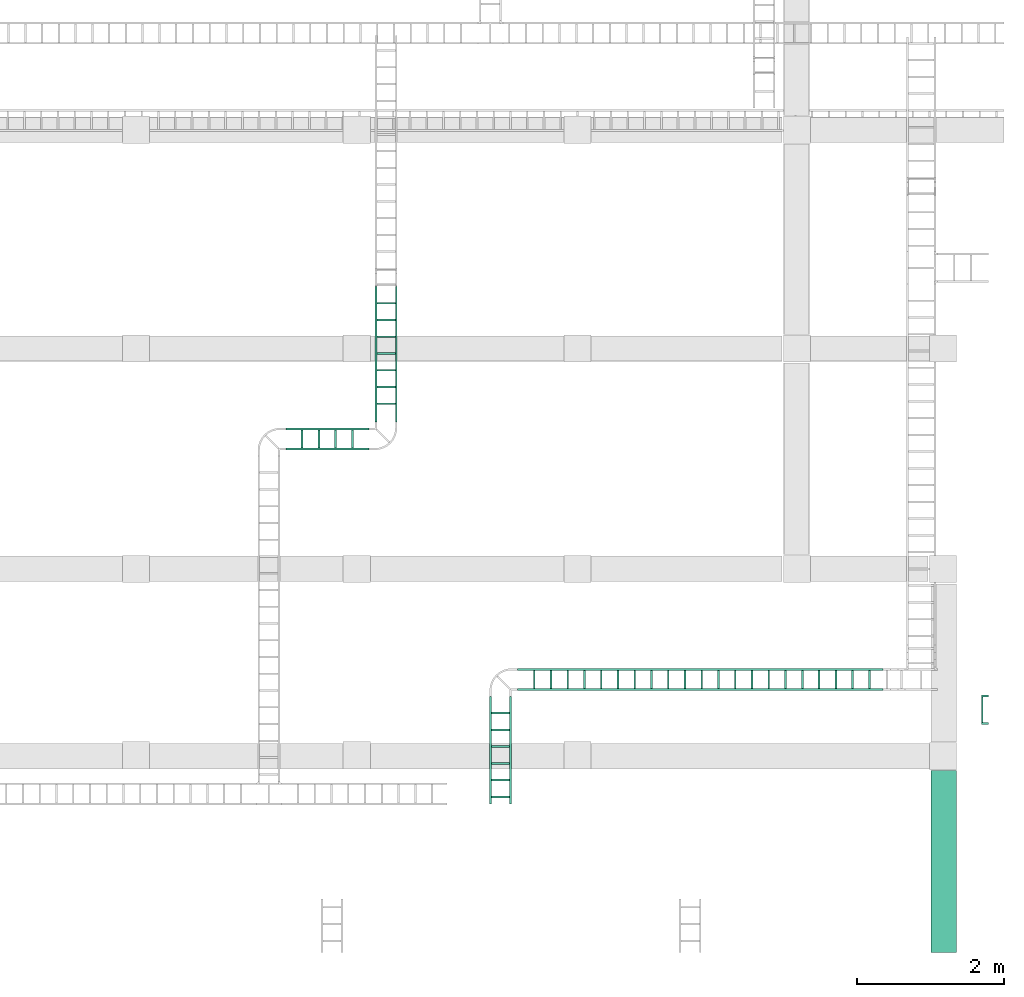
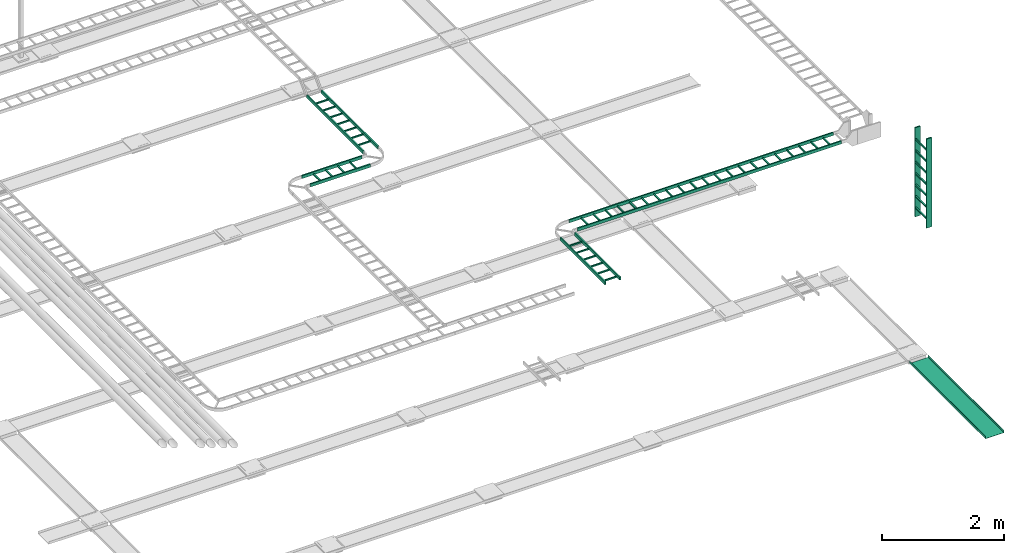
# One storey, part 7 of 16: 6 flow segments.
"""IFC2X3 building model written with IfcOpenShell, lengths in millimetres."""

from ifc_helpers import new_model, entity, si_unit, converted_unit, derived_unit, direction, frame, origin_with_axes, place, context, subcontext, project, spatial, open_shell, faceted_brep, surface_model, source, transform, mapped, type_object, element, save


model = new_model("IFC2X3")

# Units and contexts
model_context = context("Model", 3, precision=0.01, world=frame((0.0, 4.29681676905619e-09, 0.0)), true_north=direction((4.01073788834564e-13, 1.0)))
plan_context = context("Plan", 3, precision=0.01, world=frame((0.0, 4.29681676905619e-09, 0.0)), true_north=direction((4.01073788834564e-13, 1.0)))
body_context = subcontext(model_context, "Body", "Model", "MODEL_VIEW")
ifc_project = project(units=[converted_unit("PLANEANGLEUNIT", "DEGREE", entity("IfcPositiveLengthMeasure", 0.0174532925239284), si_unit("PLANEANGLEUNIT", "RADIAN"), dimensions=[0, 0, 0, 0, 0, 0, 0]), si_unit("AREAUNIT", "SQUARE_METRE"), si_unit("LENGTHUNIT", "METRE", prefix="MILLI"), si_unit("MASSUNIT", "GRAM", prefix="KILO"), si_unit("POWERUNIT", "WATT"), si_unit("PRESSUREUNIT", "PASCAL"), si_unit("FORCEUNIT", "NEWTON", prefix="KILO"), si_unit("ELECTRICVOLTAGEUNIT", "VOLT"), si_unit("ELECTRICCURRENTUNIT", "AMPERE"), si_unit("THERMODYNAMICTEMPERATUREUNIT", "DEGREE_CELSIUS"), si_unit("TIMEUNIT", "SECOND"), si_unit("VOLUMEUNIT", "CUBIC_METRE"), derived_unit("LINEARVELOCITYUNIT", [(si_unit("LENGTHUNIT", "METRE"), 1), (si_unit("TIMEUNIT", "SECOND"), -1)]), derived_unit("VOLUMETRICFLOWRATEUNIT", [(si_unit("VOLUMEUNIT", "CUBIC_METRE"), 1), (si_unit("TIMEUNIT", "SECOND"), -1)]), derived_unit("THERMALTRANSMITTANCEUNIT", [(si_unit("POWERUNIT", "WATT"), 1), (si_unit("THERMODYNAMICTEMPERATUREUNIT", "KELVIN"), -1), (si_unit("AREAUNIT", "SQUARE_METRE"), -1)]), derived_unit("SOUNDPRESSUREUNIT", [(si_unit("PRESSUREUNIT", "PASCAL"), 1)])], contexts=[model_context, plan_context])

# Site, building, storey
site_placement = place(None, frame((0.0, -4.29681676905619e-09, 0.0), z_axis=(0.0, 0.0, 1.0), x_axis=(1.0, 0.0, 0.0)))
site = spatial("IfcSite", under=ifc_project, at=site_placement, Name="ENGM", CompositionType="ELEMENT")
building_placement = place(site_placement, frame((0.0, 4.29681676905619e-09, 0.0), z_axis=(0.0, 0.0, 1.0), x_axis=(1.0, 0.0, 0.0)))
building = spatial("IfcBuilding", under=site, at=building_placement, Name="TS", CompositionType="ELEMENT")
storey_placement = place(building_placement, frame((0.0, 0.0, 210900.0), z_axis=(0.0, 0.0, 1.0), x_axis=(1.0, 0.0, 0.0)))
storey = spatial("IfcBuildingStorey", under=building, at=storey_placement, Name="Nivå F", CompositionType="ELEMENT", Elevation=210900.0)

# Flow segments
cable_carrier_segment_type_1 = type_object("IfcCableCarrierSegmentType", Name="Kabelbro", PredefinedType="CABLELADDERSEGMENT")
shared_shape_1 = source(origin_with_axes(), body_context, "Body", "SurfaceModel", [
    surface_model("IfcShellBasedSurfaceModel", [(0.0, -124.6, -30.0), (0.0, -150.0, -30.0), (0.0, -150.0, 30.0), (0.0, -124.6, 30.0), (0.0, 150.0, -30.0), (0.0, 124.6, -30.0), (0.0, 124.6, 30.0), (0.0, 150.0, 30.0), (241.30001, -124.6, -30.0), (241.30001, -124.6, -4.6), (215.89999, -124.6, -4.6), (215.89999, -124.6, -30.0), (215.89999, 124.6, -4.6), (241.30001, 124.6, -4.6), (241.30001, 124.6, -30.0), (215.89999, 124.6, -30.0), (469.89999, -124.6, -30.0), (469.89999, -124.6, -4.6), (444.50001, -124.6, -4.6), (444.50001, -124.6, -30.0), (444.50001, 124.6, -4.6), (469.89999, 124.6, -4.6), (469.89999, 124.6, -30.0), (444.50001, 124.6, -30.0), (698.50002, -124.6, -30.0), (698.50002, -124.6, -4.6), (673.09998, -124.6, -4.6), (673.09998, -124.6, -30.0), (673.09998, 124.6, -4.6), (698.50002, 124.6, -4.6), (698.50002, 124.6, -30.0), (673.09998, 124.6, -30.0), (927.10002, -124.6, -30.0), (927.10002, -124.6, -4.6), (901.69998, -124.6, -4.6), (901.69998, -124.6, -30.0), (901.69998, 124.6, -4.6), (927.10002, 124.6, -4.6), (927.10002, 124.6, -30.0), (901.69998, 124.6, -30.0), (1155.70002, -124.6, -30.0), (1155.70002, -124.6, -4.6), (1130.29998, -124.6, -4.6), (1130.29998, -124.6, -30.0), (1130.29998, 124.6, -4.6), (1155.70002, 124.6, -4.6), (1155.70002, 124.6, -30.0), (1130.29998, 124.6, -30.0), (1384.29995, -124.6, -30.0), (1384.29995, -124.6, -4.6), (1358.90005, -124.6, -4.6), (1358.90005, -124.6, -30.0), (1358.90005, 124.6, -4.6), (1384.29995, 124.6, -4.6), (1384.29995, 124.6, -30.0), (1358.90005, 124.6, -30.0), (1612.89995, -124.6, -30.0), (1612.89995, -124.6, -4.6), (1587.50005, -124.6, -4.6), (1587.50005, -124.6, -30.0), (1587.50005, 124.6, -4.6), (1612.89995, 124.6, -4.6), (1612.89995, 124.6, -30.0), (1587.50005, 124.6, -30.0), (1841.49995, -124.6, -30.0), (1841.49995, -124.6, -4.6), (1816.10005, -124.6, -4.6), (1816.10005, -124.6, -30.0), (1816.10005, 124.6, -4.6), (1841.49995, 124.6, -4.6), (1841.49995, 124.6, -30.0), (1816.10005, 124.6, -30.0), (2070.09995, -124.6, -30.0), (2070.09995, -124.6, -4.6), (2044.70005, -124.6, -4.6), (2044.70005, -124.6, -30.0), (2044.70005, 124.6, -4.6), (2070.09995, 124.6, -4.6), (2070.09995, 124.6, -30.0), (2044.70005, 124.6, -30.0), (2298.69995, -124.6, -30.0), (2298.69995, -124.6, -4.6), (2273.30005, -124.6, -4.6), (2273.30005, -124.6, -30.0), (2273.30005, 124.6, -4.6), (2298.69995, 124.6, -4.6), (2298.69995, 124.6, -30.0), (2273.30005, 124.6, -30.0), (2527.3001, -124.6, -30.0), (2527.3001, -124.6, -4.6), (2501.8999, -124.6, -4.6), (2501.8999, -124.6, -30.0), (2501.8999, 124.6, -4.6), (2527.3001, 124.6, -4.6), (2527.3001, 124.6, -30.0), (2501.8999, 124.6, -30.0), (2755.9001, -124.6, -30.0), (2755.9001, -124.6, -4.6), (2730.4999, -124.6, -4.6), (2730.4999, -124.6, -30.0), (2730.4999, 124.6, -4.6), (2755.9001, 124.6, -4.6), (2755.9001, 124.6, -30.0), (2730.4999, 124.6, -30.0), (2984.5001, -124.6, -30.0), (2984.5001, -124.6, -4.6), (2959.0999, -124.6, -4.6), (2959.0999, -124.6, -30.0), (2959.0999, 124.6, -4.6), (2984.5001, 124.6, -4.6), (2984.5001, 124.6, -30.0), (2959.0999, 124.6, -30.0), (3213.1001, -124.6, -30.0), (3213.1001, -124.6, -4.6), (3187.6999, -124.6, -4.6), (3187.6999, -124.6, -30.0), (3187.6999, 124.6, -4.6), (3213.1001, 124.6, -4.6), (3213.1001, 124.6, -30.0), (3187.6999, 124.6, -30.0), (3441.7001, -124.6, -30.0), (3441.7001, -124.6, -4.6), (3416.2999, -124.6, -4.6), (3416.2999, -124.6, -30.0), (3416.2999, 124.6, -4.6), (3441.7001, 124.6, -4.6), (3441.7001, 124.6, -30.0), (3416.2999, 124.6, -30.0), (3670.3001, -124.6, -30.0), (3670.3001, -124.6, -4.6), (3644.8999, -124.6, -4.6), (3644.8999, -124.6, -30.0), (3644.8999, 124.6, -4.6), (3670.3001, 124.6, -4.6), (3670.3001, 124.6, -30.0), (3644.8999, 124.6, -30.0), (3898.9001, -124.6, -30.0), (3898.9001, -124.6, -4.6), (3873.4999, -124.6, -4.6), (3873.4999, -124.6, -30.0), (3873.4999, 124.6, -4.6), (3898.9001, 124.6, -4.6), (3898.9001, 124.6, -30.0), (3873.4999, 124.6, -30.0), (4127.5001, -124.6, -30.0), (4127.5001, -124.6, -4.6), (4102.0999, -124.6, -4.6), (4102.0999, -124.6, -30.0), (4102.0999, 124.6, -4.6), (4127.5001, 124.6, -4.6), (4127.5001, 124.6, -30.0), (4102.0999, 124.6, -30.0), (4356.1001, -124.6, -30.0), (4356.1001, -124.6, -4.6), (4330.6999, -124.6, -4.6), (4330.6999, -124.6, -30.0), (4330.6999, 124.6, -4.6), (4356.1001, 124.6, -4.6), (4356.1001, 124.6, -30.0), (4330.6999, 124.6, -30.0), (4584.7001, -124.6, -30.0), (4584.7001, -124.6, -4.6), (4559.2999, -124.6, -4.6), (4559.2999, -124.6, -30.0), (4559.2999, 124.6, -4.6), (4584.7001, 124.6, -4.6), (4584.7001, 124.6, -30.0), (4559.2999, 124.6, -30.0), (4813.3001, -124.6, -30.0), (4813.3001, -124.6, -4.6), (4787.8999, -124.6, -4.6), (4787.8999, -124.6, -30.0), (4787.8999, 124.6, -4.6), (4813.3001, 124.6, -4.6), (4813.3001, 124.6, -30.0), (4787.8999, 124.6, -30.0), (4989.00013, -150.0, 30.0), (4989.00013, -150.0, -30.0), (4989.00013, -124.6, -30.0), (4989.00013, -124.6, 30.0), (4989.00013, 124.6, 30.0), (4989.00013, 124.6, -30.0), (4989.00013, 150.0, -30.0), (4989.00013, 150.0, 30.0)], [open_shell([[[0, 1, 2]], [[2, 3, 0]], [[4, 5, 6]], [[6, 7, 4]], [[8, 9, 10]], [[10, 11, 8]], [[12, 13, 14]], [[14, 15, 12]], [[9, 8, 14]], [[14, 13, 9]], [[10, 9, 12]], [[13, 12, 9]], [[11, 10, 12]], [[12, 15, 11]], [[8, 11, 14]], [[15, 14, 11]], [[16, 17, 18]], [[18, 19, 16]], [[20, 21, 22]], [[22, 23, 20]], [[17, 16, 22]], [[22, 21, 17]], [[18, 17, 20]], [[21, 20, 17]], [[19, 18, 20]], [[20, 23, 19]], [[16, 19, 22]], [[23, 22, 19]], [[24, 25, 26]], [[26, 27, 24]], [[28, 29, 30]], [[30, 31, 28]], [[25, 24, 30]], [[30, 29, 25]], [[26, 25, 28]], [[29, 28, 25]], [[27, 26, 28]], [[28, 31, 27]], [[24, 27, 30]], [[31, 30, 27]], [[32, 33, 34]], [[34, 35, 32]], [[36, 37, 38]], [[38, 39, 36]], [[33, 32, 38]], [[38, 37, 33]], [[34, 33, 36]], [[37, 36, 33]], [[35, 34, 36]], [[36, 39, 35]], [[32, 35, 38]], [[39, 38, 35]], [[40, 41, 42]], [[42, 43, 40]], [[44, 45, 46]], [[46, 47, 44]], [[41, 40, 46]], [[46, 45, 41]], [[42, 41, 44]], [[45, 44, 41]], [[43, 42, 44]], [[44, 47, 43]], [[40, 43, 46]], [[47, 46, 43]], [[48, 49, 50]], [[50, 51, 48]], [[52, 53, 54]], [[54, 55, 52]], [[49, 48, 54]], [[54, 53, 49]], [[50, 49, 52]], [[53, 52, 49]], [[51, 50, 52]], [[52, 55, 51]], [[48, 51, 54]], [[55, 54, 51]], [[56, 57, 58]], [[58, 59, 56]], [[60, 61, 62]], [[62, 63, 60]], [[57, 56, 62]], [[62, 61, 57]], [[58, 57, 60]], [[61, 60, 57]], [[59, 58, 60]], [[60, 63, 59]], [[56, 59, 62]], [[63, 62, 59]], [[64, 65, 66]], [[66, 67, 64]], [[68, 69, 70]], [[70, 71, 68]], [[65, 64, 70]], [[70, 69, 65]], [[66, 65, 68]], [[69, 68, 65]], [[67, 66, 68]], [[68, 71, 67]], [[64, 67, 70]], [[71, 70, 67]], [[72, 73, 74]], [[74, 75, 72]], [[76, 77, 78]], [[78, 79, 76]], [[73, 72, 78]], [[78, 77, 73]], [[74, 73, 76]], [[77, 76, 73]], [[75, 74, 76]], [[76, 79, 75]], [[72, 75, 78]], [[79, 78, 75]], [[80, 81, 82]], [[82, 83, 80]], [[84, 85, 86]], [[86, 87, 84]], [[81, 80, 86]], [[86, 85, 81]], [[82, 81, 84]], [[85, 84, 81]], [[83, 82, 84]], [[84, 87, 83]], [[80, 83, 86]], [[87, 86, 83]], [[88, 89, 90]], [[90, 91, 88]], [[92, 93, 94]], [[94, 95, 92]], [[89, 88, 94]], [[94, 93, 89]], [[90, 89, 92]], [[93, 92, 89]], [[91, 90, 92]], [[92, 95, 91]], [[88, 91, 94]], [[95, 94, 91]], [[96, 97, 98]], [[98, 99, 96]], [[100, 101, 102]], [[102, 103, 100]], [[97, 96, 102]], [[102, 101, 97]], [[98, 97, 100]], [[101, 100, 97]], [[99, 98, 100]], [[100, 103, 99]], [[96, 99, 102]], [[103, 102, 99]], [[104, 105, 106]], [[106, 107, 104]], [[108, 109, 110]], [[110, 111, 108]], [[105, 104, 110]], [[110, 109, 105]], [[106, 105, 108]], [[109, 108, 105]], [[107, 106, 108]], [[108, 111, 107]], [[104, 107, 110]], [[111, 110, 107]], [[112, 113, 114]], [[114, 115, 112]], [[116, 117, 118]], [[118, 119, 116]], [[113, 112, 118]], [[118, 117, 113]], [[114, 113, 116]], [[117, 116, 113]], [[115, 114, 116]], [[116, 119, 115]], [[112, 115, 118]], [[119, 118, 115]], [[120, 121, 122]], [[122, 123, 120]], [[124, 125, 126]], [[126, 127, 124]], [[121, 120, 126]], [[126, 125, 121]], [[122, 121, 124]], [[125, 124, 121]], [[123, 122, 124]], [[124, 127, 123]], [[120, 123, 126]], [[127, 126, 123]], [[128, 129, 130]], [[130, 131, 128]], [[132, 133, 134]], [[134, 135, 132]], [[129, 128, 134]], [[134, 133, 129]], [[130, 129, 132]], [[133, 132, 129]], [[131, 130, 132]], [[132, 135, 131]], [[128, 131, 134]], [[135, 134, 131]], [[136, 137, 138]], [[138, 139, 136]], [[140, 141, 142]], [[142, 143, 140]], [[137, 136, 142]], [[142, 141, 137]], [[138, 137, 140]], [[141, 140, 137]], [[139, 138, 140]], [[140, 143, 139]], [[136, 139, 142]], [[143, 142, 139]], [[144, 145, 146]], [[146, 147, 144]], [[148, 149, 150]], [[150, 151, 148]], [[145, 144, 150]], [[150, 149, 145]], [[146, 145, 148]], [[149, 148, 145]], [[147, 146, 148]], [[148, 151, 147]], [[144, 147, 150]], [[151, 150, 147]], [[152, 153, 154]], [[154, 155, 152]], [[156, 157, 158]], [[158, 159, 156]], [[153, 152, 158]], [[158, 157, 153]], [[154, 153, 156]], [[157, 156, 153]], [[155, 154, 156]], [[156, 159, 155]], [[152, 155, 158]], [[159, 158, 155]], [[160, 161, 162]], [[162, 163, 160]], [[164, 165, 166]], [[166, 167, 164]], [[161, 160, 166]], [[166, 165, 161]], [[162, 161, 164]], [[165, 164, 161]], [[163, 162, 164]], [[164, 167, 163]], [[160, 163, 166]], [[167, 166, 163]], [[168, 169, 170]], [[170, 171, 168]], [[172, 173, 174]], [[174, 175, 172]], [[169, 168, 174]], [[174, 173, 169]], [[170, 169, 172]], [[173, 172, 169]], [[171, 170, 172]], [[172, 175, 171]], [[168, 171, 174]], [[175, 174, 171]], [[176, 177, 178]], [[178, 179, 176]], [[180, 181, 182]], [[182, 183, 180]], [[2, 1, 176]], [[177, 176, 1]], [[3, 2, 176]], [[176, 179, 3]], [[0, 3, 178]], [[179, 178, 3]], [[1, 0, 178]], [[178, 177, 1]], [[4, 7, 182]], [[183, 182, 7]], [[5, 4, 182]], [[182, 181, 5]], [[6, 5, 180]], [[181, 180, 5]], [[7, 6, 180]], [[180, 183, 7]]])]),
])
flow_segment_1_placement = place(storey_placement, frame((529683.55901, 444501.94453, 3925.0), z_axis=(0.0, 0.0, 1.0), x_axis=(1.0, 0.0, 0.0)))
element("IfcFlowSegment", 1, at=flow_segment_1_placement, inside=storey, type_object=cable_carrier_segment_type_1, Name="Kabelbro", context=body_context, shape_type="MappedRepresentation", body=[
    mapped(shared_shape_1, transform((0.0, 0.0, 0.0), scale=1.0)),
])
shared_shape_2 = source(origin_with_axes(), body_context, "Body", "SurfaceModel", [
    surface_model("IfcShellBasedSurfaceModel", [(241.30001, -124.6, -4.6), (241.30001, -124.6, -30.0), (241.30001, 124.6, -30.0), (241.30001, 124.6, -4.6), (215.89999, -124.6, -4.6), (215.89999, 124.6, -4.6), (215.89999, -124.6, -30.0), (215.89999, 124.6, -30.0), (469.89999, -124.6, -4.6), (469.89999, -124.6, -30.0), (469.89999, 124.6, -30.0), (469.89999, 124.6, -4.6), (444.50001, -124.6, -4.6), (444.50001, 124.6, -4.6), (444.50001, -124.6, -30.0), (444.50001, 124.6, -30.0), (698.50002, -124.6, -4.6), (698.50002, -124.6, -30.0), (698.50002, 124.6, -30.0), (698.50002, 124.6, -4.6), (673.09998, -124.6, -4.6), (673.09998, 124.6, -4.6), (673.09998, -124.6, -30.0), (673.09998, 124.6, -30.0), (927.10002, -124.6, -4.6), (927.10002, -124.6, -30.0), (927.10002, 124.6, -30.0), (927.10002, 124.6, -4.6), (901.69998, -124.6, -4.6), (901.69998, 124.6, -4.6), (901.69998, -124.6, -30.0), (901.69998, 124.6, -30.0), (1155.70002, -124.6, -4.6), (1155.70002, -124.6, -30.0), (1155.70002, 124.6, -30.0), (1155.70002, 124.6, -4.6), (1130.29998, -124.6, -4.6), (1130.29998, 124.6, -4.6), (1130.29998, -124.6, -30.0), (1130.29998, 124.6, -30.0), (1384.29995, -124.6, -4.6), (1384.29995, -124.6, -30.0), (1384.29995, 124.6, -30.0), (1384.29995, 124.6, -4.6), (1358.90005, -124.6, -4.6), (1358.90005, 124.6, -4.6), (1358.90005, -124.6, -30.0), (1358.90005, 124.6, -30.0), (1612.89995, -124.6, -4.6), (1612.89995, -124.6, -30.0), (1612.89995, 124.6, -30.0), (1612.89995, 124.6, -4.6), (1587.50005, -124.6, -4.6), (1587.50005, 124.6, -4.6), (1587.50005, -124.6, -30.0), (1587.50005, 124.6, -30.0), (0.0, -124.6, 30.0), (0.0, -124.6, -30.0), (0.0, -150.0, -30.0), (0.0, -150.0, 30.0), (0.0, 150.0, 30.0), (0.0, 150.0, -30.0), (0.0, 124.6, -30.0), (0.0, 124.6, 30.0), (1849.43144, -124.6, 30.0), (1849.43144, -150.0, 30.0), (1849.43144, -150.0, -30.0), (1849.43144, -124.6, -30.0), (1849.43144, 150.0, 30.0), (1849.43144, 124.6, 30.0), (1849.43144, 124.6, -30.0), (1849.43144, 150.0, -30.0)], [open_shell([[[0, 1, 2]], [[2, 3, 0]], [[4, 0, 5]], [[3, 5, 0]], [[6, 4, 5]], [[5, 7, 6]], [[1, 6, 2]], [[7, 2, 6]], [[8, 9, 10]], [[10, 11, 8]], [[12, 8, 13]], [[11, 13, 8]], [[14, 12, 13]], [[13, 15, 14]], [[9, 14, 10]], [[15, 10, 14]], [[16, 17, 18]], [[18, 19, 16]], [[20, 16, 21]], [[19, 21, 16]], [[22, 20, 21]], [[21, 23, 22]], [[17, 22, 18]], [[23, 18, 22]], [[24, 25, 26]], [[26, 27, 24]], [[28, 24, 29]], [[27, 29, 24]], [[30, 28, 29]], [[29, 31, 30]], [[25, 30, 26]], [[31, 26, 30]], [[32, 33, 34]], [[34, 35, 32]], [[36, 32, 37]], [[35, 37, 32]], [[38, 36, 37]], [[37, 39, 38]], [[33, 38, 34]], [[39, 34, 38]], [[40, 41, 42]], [[42, 43, 40]], [[44, 40, 45]], [[43, 45, 40]], [[46, 44, 45]], [[45, 47, 46]], [[41, 46, 42]], [[47, 42, 46]], [[48, 49, 50]], [[50, 51, 48]], [[52, 48, 53]], [[51, 53, 48]], [[54, 52, 53]], [[53, 55, 54]], [[49, 54, 50]], [[55, 50, 54]], [[56, 57, 58]], [[58, 59, 56]], [[60, 61, 62]], [[62, 63, 60]], [[6, 1, 0]], [[0, 4, 6]], [[3, 2, 7]], [[7, 5, 3]], [[14, 9, 8]], [[8, 12, 14]], [[11, 10, 15]], [[15, 13, 11]], [[22, 17, 16]], [[16, 20, 22]], [[19, 18, 23]], [[23, 21, 19]], [[30, 25, 24]], [[24, 28, 30]], [[27, 26, 31]], [[31, 29, 27]], [[38, 33, 32]], [[32, 36, 38]], [[35, 34, 39]], [[39, 37, 35]], [[46, 41, 40]], [[40, 44, 46]], [[43, 42, 47]], [[47, 45, 43]], [[54, 49, 48]], [[48, 52, 54]], [[51, 50, 55]], [[55, 53, 51]], [[64, 65, 66]], [[66, 67, 64]], [[68, 69, 70]], [[70, 71, 68]], [[59, 58, 66]], [[66, 65, 59]], [[56, 59, 64]], [[65, 64, 59]], [[57, 56, 64]], [[64, 67, 57]], [[58, 57, 66]], [[67, 66, 57]], [[61, 60, 68]], [[68, 71, 61]], [[62, 61, 70]], [[71, 70, 61]], [[63, 62, 70]], [[70, 69, 63]], [[60, 63, 68]], [[69, 68, 63]]])]),
])
flow_segment_2_placement = place(storey_placement, frame((527892.55901, 449861.7271, 3925.0), z_axis=(0.0, 0.0, 1.0), x_axis=(0.0, -1.0, 0.0)))
element("IfcFlowSegment", 2, at=flow_segment_2_placement, inside=storey, type_object=cable_carrier_segment_type_1, Name="Kabelbro", context=body_context, shape_type="MappedRepresentation", body=[
    mapped(shared_shape_2, transform((0.0, 0.0, 0.0), scale=1.0)),
])
shared_shape_3 = source(origin_with_axes(), body_context, "Body", "SurfaceModel", [
    surface_model("IfcShellBasedSurfaceModel", [(0.0, -124.6, -30.0), (0.0, -150.0, -30.0), (0.0, -150.0, 30.0), (0.0, -124.6, 30.0), (0.0, 150.0, -30.0), (0.0, 124.6, -30.0), (0.0, 124.6, 30.0), (0.0, 150.0, 30.0), (241.30001, -124.6, -30.0), (241.30001, -124.6, -4.6), (215.89999, -124.6, -4.6), (215.89999, -124.6, -30.0), (215.89999, 124.6, -4.6), (241.30001, 124.6, -4.6), (241.30001, 124.6, -30.0), (215.89999, 124.6, -30.0), (469.89999, -124.6, -30.0), (469.89999, -124.6, -4.6), (444.50001, -124.6, -4.6), (444.50001, -124.6, -30.0), (444.50001, 124.6, -4.6), (469.89999, 124.6, -4.6), (469.89999, 124.6, -30.0), (444.50001, 124.6, -30.0), (698.50002, -124.6, -30.0), (698.50002, -124.6, -4.6), (673.09998, -124.6, -4.6), (673.09998, -124.6, -30.0), (673.09998, 124.6, -4.6), (698.50002, 124.6, -4.6), (698.50002, 124.6, -30.0), (673.09998, 124.6, -30.0), (927.10002, -124.6, -30.0), (927.10002, -124.6, -4.6), (901.69998, -124.6, -4.6), (901.69998, -124.6, -30.0), (901.69998, 124.6, -4.6), (927.10002, 124.6, -4.6), (927.10002, 124.6, -30.0), (901.69998, 124.6, -30.0), (1138.00001, -150.0, 30.0), (1138.00001, -150.0, -30.0), (1138.00001, -124.6, -30.0), (1138.00001, -124.6, 30.0), (1138.00001, 124.6, 30.0), (1138.00001, 124.6, -30.0), (1138.00001, 150.0, -30.0), (1138.00001, 150.0, 30.0)], [open_shell([[[0, 1, 2]], [[2, 3, 0]], [[4, 5, 6]], [[6, 7, 4]], [[8, 9, 10]], [[10, 11, 8]], [[12, 13, 14]], [[14, 15, 12]], [[9, 8, 14]], [[14, 13, 9]], [[10, 9, 12]], [[13, 12, 9]], [[11, 10, 12]], [[12, 15, 11]], [[8, 11, 14]], [[15, 14, 11]], [[16, 17, 18]], [[18, 19, 16]], [[20, 21, 22]], [[22, 23, 20]], [[17, 16, 22]], [[22, 21, 17]], [[18, 17, 20]], [[21, 20, 17]], [[19, 18, 20]], [[20, 23, 19]], [[16, 19, 22]], [[23, 22, 19]], [[24, 25, 26]], [[26, 27, 24]], [[28, 29, 30]], [[30, 31, 28]], [[25, 24, 30]], [[30, 29, 25]], [[26, 25, 28]], [[29, 28, 25]], [[27, 26, 28]], [[28, 31, 27]], [[24, 27, 30]], [[31, 30, 27]], [[32, 33, 34]], [[34, 35, 32]], [[36, 37, 38]], [[38, 39, 36]], [[33, 32, 38]], [[38, 37, 33]], [[34, 33, 36]], [[37, 36, 33]], [[35, 34, 36]], [[36, 39, 35]], [[32, 35, 38]], [[39, 38, 35]], [[40, 41, 42]], [[42, 43, 40]], [[44, 45, 46]], [[46, 47, 44]], [[2, 1, 40]], [[41, 40, 1]], [[3, 2, 43]], [[40, 43, 2]], [[0, 3, 42]], [[43, 42, 3]], [[1, 0, 41]], [[42, 41, 0]], [[4, 7, 46]], [[47, 46, 7]], [[5, 4, 45]], [[46, 45, 4]], [[6, 5, 44]], [[45, 44, 5]], [[7, 6, 47]], [[44, 47, 6]]])]),
])
flow_segment_3_placement = place(storey_placement, frame((527661.55901, 447781.29565, 3925.0), z_axis=(0.0, 0.0, 1.0), x_axis=(-1.0, 0.0, 0.0)))
element("IfcFlowSegment", 3, at=flow_segment_3_placement, inside=storey, type_object=cable_carrier_segment_type_1, Name="Kabelbro", context=body_context, shape_type="MappedRepresentation", body=[
    mapped(shared_shape_3, transform((0.0, 0.0, 0.0), scale=1.0)),
])
shared_shape_4 = source(origin_with_axes(), body_context, "Body", "SurfaceModel", [
    surface_model("IfcShellBasedSurfaceModel", [(241.30001, -124.6, -4.6), (241.30001, -124.6, -30.0), (241.30001, 124.6, -30.0), (241.30001, 124.6, -4.6), (215.89999, -124.6, -4.6), (215.89999, 124.6, -4.6), (215.89999, -124.6, -30.0), (215.89999, 124.6, -30.0), (469.89999, -124.6, -4.6), (469.89999, -124.6, -30.0), (469.89999, 124.6, -30.0), (469.89999, 124.6, -4.6), (444.50001, -124.6, -4.6), (444.50001, 124.6, -4.6), (444.50001, -124.6, -30.0), (444.50001, 124.6, -30.0), (698.50002, -124.6, -4.6), (698.50002, -124.6, -30.0), (698.50002, 124.6, -30.0), (698.50002, 124.6, -4.6), (673.09998, -124.6, -4.6), (673.09998, 124.6, -4.6), (673.09998, -124.6, -30.0), (673.09998, 124.6, -30.0), (927.10002, -124.6, -4.6), (927.10002, -124.6, -30.0), (927.10002, 124.6, -30.0), (927.10002, 124.6, -4.6), (901.69998, -124.6, -4.6), (901.69998, 124.6, -4.6), (901.69998, -124.6, -30.0), (901.69998, 124.6, -30.0), (1155.70002, -124.6, -4.6), (1155.70002, -124.6, -30.0), (1155.70002, 124.6, -30.0), (1155.70002, 124.6, -4.6), (1130.29998, -124.6, -4.6), (1130.29998, 124.6, -4.6), (1130.29998, -124.6, -30.0), (1130.29998, 124.6, -30.0), (1384.29995, -124.6, -4.6), (1384.29995, -124.6, -30.0), (1384.29995, 124.6, -30.0), (1384.29995, 124.6, -4.6), (1358.90005, -124.6, -4.6), (1358.90005, 124.6, -4.6), (1358.90005, -124.6, -30.0), (1358.90005, 124.6, -30.0), (0.0, -124.6, 30.0), (0.0, -124.6, -30.0), (0.0, -150.0, -30.0), (0.0, -150.0, 30.0), (0.0, 150.0, 30.0), (0.0, 150.0, -30.0), (0.0, 124.6, -30.0), (0.0, 124.6, 30.0), (1469.00001, -124.6, 30.0), (1469.00001, -150.0, 30.0), (1469.00001, -150.0, -30.0), (1469.00001, -124.6, -30.0), (1469.00001, 150.0, 30.0), (1469.00001, 124.6, 30.0), (1469.00001, 124.6, -30.0), (1469.00001, 150.0, -30.0)], [open_shell([[[0, 1, 2]], [[2, 3, 0]], [[4, 0, 5]], [[3, 5, 0]], [[6, 4, 5]], [[5, 7, 6]], [[1, 6, 2]], [[7, 2, 6]], [[8, 9, 10]], [[10, 11, 8]], [[12, 8, 13]], [[11, 13, 8]], [[14, 12, 13]], [[13, 15, 14]], [[9, 14, 10]], [[15, 10, 14]], [[16, 17, 18]], [[18, 19, 16]], [[20, 16, 21]], [[19, 21, 16]], [[22, 20, 21]], [[21, 23, 22]], [[17, 22, 18]], [[23, 18, 22]], [[24, 25, 26]], [[26, 27, 24]], [[28, 24, 29]], [[27, 29, 24]], [[30, 28, 29]], [[29, 31, 30]], [[25, 30, 26]], [[31, 26, 30]], [[32, 33, 34]], [[34, 35, 32]], [[36, 32, 37]], [[35, 37, 32]], [[38, 36, 37]], [[37, 39, 38]], [[33, 38, 34]], [[39, 34, 38]], [[40, 41, 42]], [[42, 43, 40]], [[44, 40, 45]], [[43, 45, 40]], [[46, 44, 45]], [[45, 47, 46]], [[41, 46, 42]], [[47, 42, 46]], [[48, 49, 50]], [[50, 51, 48]], [[52, 53, 54]], [[54, 55, 52]], [[6, 1, 0]], [[0, 4, 6]], [[3, 2, 7]], [[7, 5, 3]], [[14, 9, 8]], [[8, 12, 14]], [[11, 10, 15]], [[15, 13, 11]], [[22, 17, 16]], [[16, 20, 22]], [[19, 18, 23]], [[23, 21, 19]], [[30, 25, 24]], [[24, 28, 30]], [[27, 26, 31]], [[31, 29, 27]], [[38, 33, 32]], [[32, 36, 38]], [[35, 34, 39]], [[39, 37, 35]], [[46, 41, 40]], [[40, 44, 46]], [[43, 42, 47]], [[47, 45, 43]], [[56, 57, 58]], [[58, 59, 56]], [[60, 61, 62]], [[62, 63, 60]], [[51, 50, 57]], [[58, 57, 50]], [[48, 51, 57]], [[57, 56, 48]], [[49, 48, 56]], [[56, 59, 49]], [[50, 49, 59]], [[59, 58, 50]], [[53, 52, 60]], [[60, 63, 53]], [[54, 53, 63]], [[63, 62, 54]], [[55, 54, 61]], [[62, 61, 54]], [[52, 55, 61]], [[61, 60, 52]]])]),
])
flow_segment_4_placement = place(storey_placement, frame((529452.55901, 444270.94453, 3925.0), z_axis=(0.0, 0.0, 1.0), x_axis=(0.0, -1.0, 0.0)))
element("IfcFlowSegment", 4, at=flow_segment_4_placement, inside=storey, type_object=cable_carrier_segment_type_1, Name="Kabelbro", context=body_context, shape_type="MappedRepresentation", body=[
    mapped(shared_shape_4, transform((0.0, 0.0, 0.0), scale=1.0)),
])
shared_shape_5 = source(origin_with_axes(), body_context, "Body", "SurfaceModel", [
    surface_model("IfcShellBasedSurfaceModel", [(0.0, -174.60001, -50.0), (0.0, -200.0, 50.0), (0.0, -174.60001, 50.0), (0.0, -200.0, -50.0), (0.0, 200.0, -50.0), (0.0, 174.60001, 50.0), (0.0, 200.0, 50.0), (0.0, 174.60001, -50.0), (1780.00007, -174.60001, 50.0), (1780.00007, -200.0, 50.0), (1780.00007, -174.60001, -50.0), (1780.00007, -200.0, -50.0), (1780.00007, 200.0, 50.0), (1780.00007, 174.60001, 50.0), (1780.00007, 200.0, -50.0), (1780.00007, 174.60001, -50.0), (215.89999, -174.60001, -50.0), (241.30001, -174.60001, -50.0), (241.30001, -174.60001, -24.6), (215.89999, -174.60001, -24.6), (241.30001, 174.60001, -24.6), (241.30001, 174.60001, -50.0), (215.89999, 174.60001, -50.0), (215.89999, 174.60001, -24.6), (444.50001, -174.60001, -50.0), (469.89999, -174.60001, -50.0), (469.89999, -174.60001, -24.6), (444.50001, -174.60001, -24.6), (469.89999, 174.60001, -24.6), (469.89999, 174.60001, -50.0), (444.50001, 174.60001, -50.0), (444.50001, 174.60001, -24.6), (673.09998, -174.60001, -50.0), (698.50002, -174.60001, -50.0), (698.50002, -174.60001, -24.6), (673.09998, -174.60001, -24.6), (698.50002, 174.60001, -24.6), (698.50002, 174.60001, -50.0), (673.09998, 174.60001, -50.0), (673.09998, 174.60001, -24.6), (901.69998, -174.60001, -50.0), (927.10002, -174.60001, -50.0), (927.10002, -174.60001, -24.6), (901.69998, -174.60001, -24.6), (927.10002, 174.60001, -24.6), (927.10002, 174.60001, -50.0), (901.69998, 174.60001, -50.0), (901.69998, 174.60001, -24.6), (1130.29998, -174.60001, -50.0), (1155.70002, -174.60001, -50.0), (1155.70002, -174.60001, -24.6), (1130.29998, -174.60001, -24.6), (1155.70002, 174.60001, -24.6), (1155.70002, 174.60001, -50.0), (1130.29998, 174.60001, -50.0), (1130.29998, 174.60001, -24.6), (1358.90005, -174.60001, -50.0), (1384.29995, -174.60001, -50.0), (1384.29995, -174.60001, -24.6), (1358.90005, -174.60001, -24.6), (1384.29995, 174.60001, -24.6), (1384.29995, 174.60001, -50.0), (1358.90005, 174.60001, -50.0), (1358.90005, 174.60001, -24.6), (1587.50005, -174.60001, -50.0), (1612.89995, -174.60001, -50.0), (1612.89995, -174.60001, -24.6), (1587.50005, -174.60001, -24.6), (1612.89995, 174.60001, -24.6), (1612.89995, 174.60001, -50.0), (1587.50005, 174.60001, -50.0), (1587.50005, 174.60001, -24.6)], [open_shell([[[0, 1, 2]], [[1, 0, 3]], [[4, 5, 6]], [[5, 4, 7]], [[8, 9, 10]], [[11, 10, 9]], [[12, 13, 14]], [[15, 14, 13]], [[1, 3, 11]], [[11, 9, 1]], [[2, 1, 9]], [[9, 8, 2]], [[0, 2, 8]], [[8, 10, 0]], [[3, 0, 10]], [[10, 11, 3]], [[4, 6, 12]], [[12, 14, 4]], [[7, 4, 14]], [[14, 15, 7]], [[5, 7, 15]], [[15, 13, 5]], [[6, 5, 13]], [[13, 12, 6]], [[16, 17, 18]], [[18, 19, 16]], [[20, 21, 22]], [[22, 23, 20]], [[18, 17, 20]], [[21, 20, 17]], [[19, 18, 20]], [[20, 23, 19]], [[16, 19, 22]], [[23, 22, 19]], [[17, 16, 22]], [[22, 21, 17]], [[24, 25, 26]], [[26, 27, 24]], [[28, 29, 30]], [[30, 31, 28]], [[26, 25, 28]], [[29, 28, 25]], [[27, 26, 28]], [[28, 31, 27]], [[24, 27, 30]], [[31, 30, 27]], [[25, 24, 30]], [[30, 29, 25]], [[32, 33, 34]], [[34, 35, 32]], [[36, 37, 38]], [[38, 39, 36]], [[34, 33, 36]], [[37, 36, 33]], [[35, 34, 36]], [[36, 39, 35]], [[32, 35, 38]], [[39, 38, 35]], [[33, 32, 38]], [[38, 37, 33]], [[40, 41, 42]], [[42, 43, 40]], [[44, 45, 46]], [[46, 47, 44]], [[42, 41, 44]], [[45, 44, 41]], [[43, 42, 44]], [[44, 47, 43]], [[40, 43, 46]], [[47, 46, 43]], [[41, 40, 46]], [[46, 45, 41]], [[48, 49, 50]], [[50, 51, 48]], [[52, 53, 54]], [[54, 55, 52]], [[50, 49, 52]], [[53, 52, 49]], [[51, 50, 52]], [[52, 55, 51]], [[48, 51, 54]], [[55, 54, 51]], [[49, 48, 54]], [[54, 53, 49]], [[56, 57, 58]], [[58, 59, 56]], [[60, 61, 62]], [[62, 63, 60]], [[58, 57, 60]], [[61, 60, 57]], [[59, 58, 60]], [[60, 63, 59]], [[56, 59, 62]], [[63, 62, 59]], [[57, 56, 62]], [[62, 61, 57]], [[64, 65, 66]], [[66, 67, 64]], [[68, 69, 70]], [[70, 71, 68]], [[66, 65, 68]], [[69, 68, 65]], [[67, 66, 68]], [[68, 71, 67]], [[64, 67, 70]], [[71, 70, 67]], [[65, 64, 70]], [[70, 69, 65]]])]),
])
flow_segment_5_placement = place(storey_placement, frame((536060.56234, 444088.0, 3800.0), z_axis=(1.0, 0.0, 0.0), x_axis=(0.0, 0.0, -1.0)))
element("IfcFlowSegment", 5, at=flow_segment_5_placement, inside=storey, type_object=cable_carrier_segment_type_1, Name="Kabelbro", context=body_context, shape_type="MappedRepresentation", body=[
    mapped(shared_shape_5, transform((0.0, 0.0, 0.0), scale=1.0)),
])
cable_carrier_segment_type_2 = type_object("IfcCableCarrierSegmentType", Name="Kabelbane", PredefinedType="CABLETRAYSEGMENT")
flow_segment_6_placement = place(storey_placement, frame((535500.29798, 443259.42977, -35.0), z_axis=(0.0, 0.0, 1.0), x_axis=(0.0, -1.0, 0.0)))
element("IfcFlowSegment", 6, at=flow_segment_6_placement, inside=storey, type_object=cable_carrier_segment_type_2, Name="Kabelbane", context=body_context, shape_type="Brep", body=[
    faceted_brep([(0.0, -175.0, -25.0), (0.0, -172.46, -22.46), (0.0, -175.0, 25.0), (0.0, -172.46, 25.0), (0.0, 175.0, -25.0), (0.0, 172.46, -22.46), (0.0, 175.0, 25.0), (0.0, 172.46, 25.0), (2484.42977000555, -175.0, 25.0), (2484.42977000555, -175.0, -7.12797027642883), (2484.42977000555, -175.0, -25.0), (2484.42977000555, -172.46, 25.0), (2484.42977000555, -174.092100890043, 25.0), (2484.42977000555, -172.46, -5.49586938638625), (2484.42977000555, -172.46, -22.46), (2484.42977000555, 49.1715901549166, -22.46), (2484.42977000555, 172.46, -22.46), (2484.42977000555, 172.46, 8.03586938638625), (2484.42977000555, 172.46, 25.0), (2484.42977000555, 175.0, 25.0), (2484.42977000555, 173.367899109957, 25.0), (2484.42977000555, 175.0, -25.0), (2484.42977000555, 175.0, 7.12797027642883), (2484.42977000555, -49.8957919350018, -25.0)], [[[0, 1, 2]], [[3, 2, 1]], [[1, 0, 4]], [[4, 5, 1]], [[5, 4, 6]], [[6, 7, 5]], [[8, 9, 0, 2]], [[9, 10, 0]], [[11, 12, 2, 3]], [[12, 8, 2]], [[13, 11, 3, 1]], [[14, 13, 1]], [[15, 14, 1, 5]], [[16, 15, 5]], [[17, 16, 5, 7]], [[18, 17, 7]], [[19, 20, 7, 6]], [[20, 18, 7]], [[21, 22, 6, 4]], [[22, 19, 6]], [[23, 21, 4, 0]], [[10, 23, 0]], [[12, 11, 13, 14, 15, 16, 17, 18, 20, 19, 22, 21, 23, 10, 9, 8]]], orient=[[False], [False], [False], [False], [False], [False], [False], [False], [False], [False], [False], [False], [False], [False], [False], [False], [False], [False], [False], [False], [False], [False], [False]]),
])

save(model, "model.ifc")
